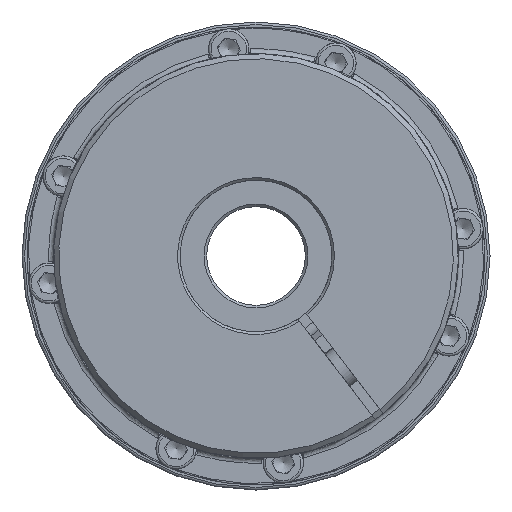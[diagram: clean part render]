
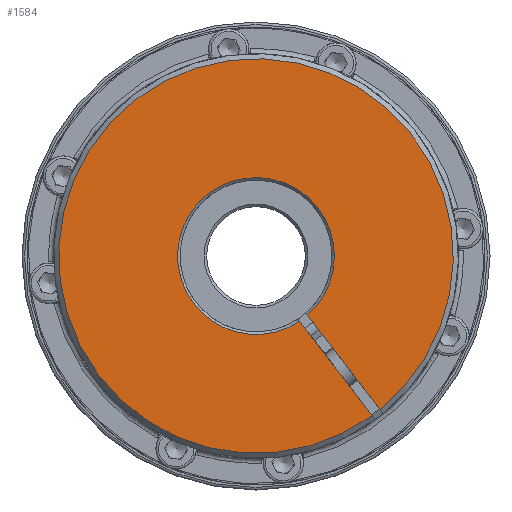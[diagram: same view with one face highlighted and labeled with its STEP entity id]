
A CAD part, left-side view. The second image highlights one B-rep face of the part: STEP entity #1584.
In plain terms, the highlighted planar face has unit normal (-1, 0, 0).
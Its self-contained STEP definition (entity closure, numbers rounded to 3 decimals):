
#1584 = ADVANCED_FACE( '', ( #3637 ), #3638, .F. );
#3637 = FACE_OUTER_BOUND( '', #6150, .T. );
#3638 = PLANE( '', #6151 );
#6150 = EDGE_LOOP( '', ( #10925, #10926, #10927, #10928 ) );
#6151 = AXIS2_PLACEMENT_3D( '', #10929, #10930, #10931 );
#10925 = ORIENTED_EDGE( '', *, *, #15317, .T. );
#10926 = ORIENTED_EDGE( '', *, *, #13899, .T. );
#10927 = ORIENTED_EDGE( '', *, *, #14542, .T. );
#10928 = ORIENTED_EDGE( '', *, *, #15457, .T. );
#10929 = CARTESIAN_POINT( '', ( -89.85, -61.882, 47.483 ) );
#10930 = DIRECTION( '', ( 1., 0., 0. ) );
#10931 = DIRECTION( '', ( 0., 0.609, 0.793 ) );
#13899 = EDGE_CURVE( '', #16435, #16432, #16436, .T. );
#14542 = EDGE_CURVE( '', #16432, #17521, #17523, .T. );
#15317 = EDGE_CURVE( '', #18661, #16435, #18662, .T. );
#15457 = EDGE_CURVE( '', #17521, #18661, #18839, .T. );
#16432 = VERTEX_POINT( '', #20499 );
#16435 = VERTEX_POINT( '', #20505 );
#16436 = CIRCLE( '', #20506, 31. );
#17521 = VERTEX_POINT( '', #23907 );
#17523 = LINE( '', #23910, #23911 );
#18661 = VERTEX_POINT( '', #27821 );
#18662 = LINE( '', #27822, #27823 );
#18839 = CIRCLE( '', #28335, 78. );
#20499 = CARTESIAN_POINT( '', ( -89.85, -20.419, -23.325 ) );
#20505 = CARTESIAN_POINT( '', ( -89.85, -17.246, -25.76 ) );
#20506 = AXIS2_PLACEMENT_3D( '', #30251, #30252, #30253 );
#23907 = CARTESIAN_POINT( '', ( -89.85, -49.054, -60.644 ) );
#23910 = CARTESIAN_POINT( '', ( -89.85, -1.587, 1.218 ) );
#23911 = VECTOR( '', #31002, 1000. );
#27821 = CARTESIAN_POINT( '', ( -89.85, -45.881, -63.079 ) );
#27822 = CARTESIAN_POINT( '', ( -89.85, 1.587, -1.218 ) );
#27823 = VECTOR( '', #31847, 1000. );
#28335 = AXIS2_PLACEMENT_3D( '', #31989, #31990, #31991 );
#30251 = CARTESIAN_POINT( '', ( -89.85, 0., 0. ) );
#30252 = DIRECTION( '', ( 1., 0., 0. ) );
#30253 = DIRECTION( '', ( 0., 1., 0. ) );
#31002 = DIRECTION( '', ( 0., -0.609, -0.793 ) );
#31847 = DIRECTION( '', ( 0., 0.609, 0.793 ) );
#31989 = CARTESIAN_POINT( '', ( -89.85, 0., 0. ) );
#31990 = DIRECTION( '', ( -1., 0., 0. ) );
#31991 = DIRECTION( '', ( 0., -0.793, 0.609 ) );
